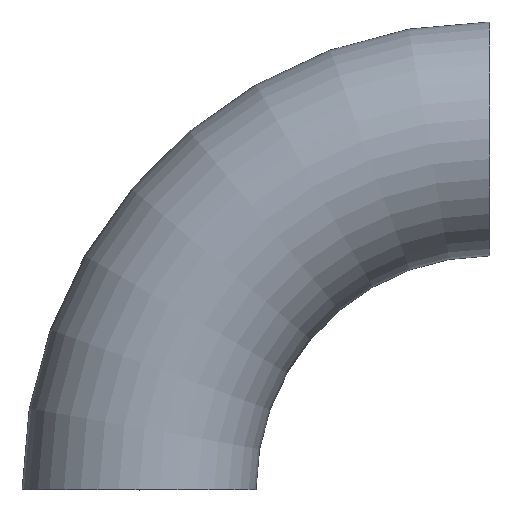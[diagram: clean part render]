
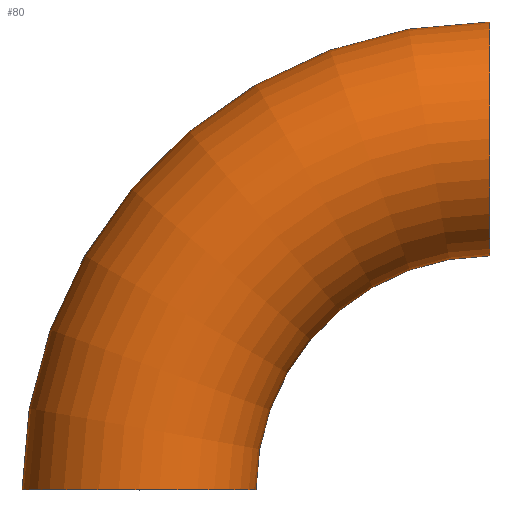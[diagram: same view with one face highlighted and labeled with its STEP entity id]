
A CAD part, top view. The second image highlights one B-rep face of the part: STEP entity #80.
In plain terms, the highlighted toroidal (fillet/blend) face has major radius 990.6 mm and minor radius 330.2 mm.
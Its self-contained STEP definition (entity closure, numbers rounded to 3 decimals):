
#20=FACE_OUTER_BOUND('',#24,.T.);
#24=EDGE_LOOP('',(#63,#64,#65,#66,#67,#68));
#34=CIRCLE('',#110,330.2);
#35=CIRCLE('',#111,330.2);
#36=CIRCLE('',#112,660.4);
#37=CIRCLE('',#113,330.2);
#38=CIRCLE('',#114,330.2);
#43=VERTEX_POINT('',#159);
#44=VERTEX_POINT('',#160);
#45=VERTEX_POINT('',#163);
#46=VERTEX_POINT('',#165);
#52=EDGE_CURVE('',#43,#44,#34,.T.);
#53=EDGE_CURVE('',#44,#43,#35,.T.);
#54=EDGE_CURVE('',#44,#45,#36,.T.);
#55=EDGE_CURVE('',#45,#46,#37,.T.);
#56=EDGE_CURVE('',#46,#45,#38,.T.);
#63=ORIENTED_EDGE('',*,*,#52,.F.);
#64=ORIENTED_EDGE('',*,*,#53,.F.);
#65=ORIENTED_EDGE('',*,*,#54,.T.);
#66=ORIENTED_EDGE('',*,*,#55,.T.);
#67=ORIENTED_EDGE('',*,*,#56,.T.);
#68=ORIENTED_EDGE('',*,*,#54,.F.);
#78=TOROIDAL_SURFACE('',#109,990.6,330.2);
#80=ADVANCED_FACE('',(#20),#78,.T.);
#109=AXIS2_PLACEMENT_3D('',#158,#131,#132);
#110=AXIS2_PLACEMENT_3D('',#161,#133,#134);
#111=AXIS2_PLACEMENT_3D('',#162,#135,#136);
#112=AXIS2_PLACEMENT_3D('',#164,#137,#138);
#113=AXIS2_PLACEMENT_3D('',#166,#139,#140);
#114=AXIS2_PLACEMENT_3D('',#167,#141,#142);
#131=DIRECTION('center_axis',(0.,0.,-1.));
#132=DIRECTION('ref_axis',(-1.,0.,0.));
#133=DIRECTION('center_axis',(1.,0.,0.));
#134=DIRECTION('ref_axis',(0.,1.,0.));
#135=DIRECTION('center_axis',(1.,0.,0.));
#136=DIRECTION('ref_axis',(0.,1.,0.));
#137=DIRECTION('center_axis',(0.,0.,1.));
#138=DIRECTION('ref_axis',(-1.,0.,0.));
#139=DIRECTION('center_axis',(0.,1.,0.));
#140=DIRECTION('ref_axis',(-1.,0.,0.));
#141=DIRECTION('center_axis',(0.,1.,0.));
#142=DIRECTION('ref_axis',(-1.,0.,0.));
#158=CARTESIAN_POINT('Origin',(0.,0.,0.));
#159=CARTESIAN_POINT('',(0.,1320.8,0.));
#160=CARTESIAN_POINT('',(0.,660.4,0.));
#161=CARTESIAN_POINT('Origin',(0.,990.6,0.));
#162=CARTESIAN_POINT('Origin',(0.,990.6,0.));
#163=CARTESIAN_POINT('',(-660.4,0.,0.));
#164=CARTESIAN_POINT('Origin',(0.,0.,0.));
#165=CARTESIAN_POINT('',(-1320.8,0.,0.));
#166=CARTESIAN_POINT('Origin',(-990.6,0.,0.));
#167=CARTESIAN_POINT('Origin',(-990.6,0.,0.));
